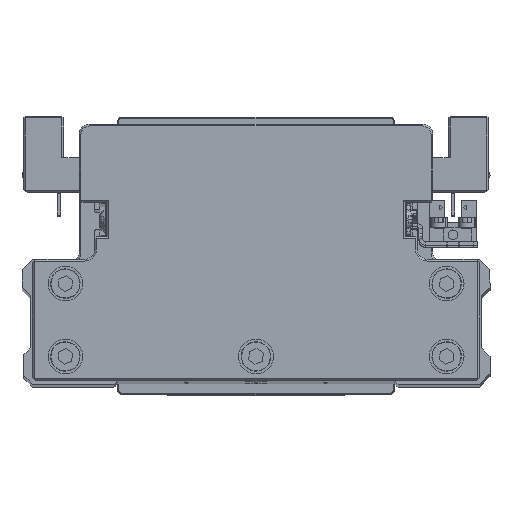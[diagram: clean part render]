
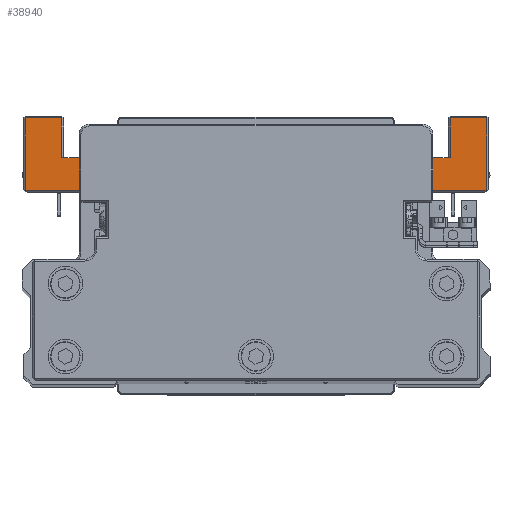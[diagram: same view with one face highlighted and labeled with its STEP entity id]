
A CAD part, top view. The second image highlights one B-rep face of the part: STEP entity #38940.
In plain terms, the highlighted planar face has unit normal (0, 0, 1) as drawn and (0, -1, 0) by its records, which use the part's own axes.
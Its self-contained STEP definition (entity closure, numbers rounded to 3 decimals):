
#454 = CARTESIAN_POINT ( 'NONE',  ( 40.066, -45., -43. ) ) ;
#596 = LINE ( 'NONE', #12829, #36774 ) ;
#811 = AXIS2_PLACEMENT_3D ( 'NONE', #35876, #8424, #20653 ) ;
#855 = EDGE_CURVE ( 'NONE', #39001, #27849, #20644, .T. ) ;
#1129 = AXIS2_PLACEMENT_3D ( 'NONE', #4975, #17209, #29433 ) ;
#1777 = VECTOR ( 'NONE', #2241, 1000. ) ;
#2205 = EDGE_CURVE ( 'NONE', #17321, #16033, #38732, .T. ) ;
#2241 = DIRECTION ( 'NONE',  ( -1., 0., 0. ) ) ;
#2365 = DIRECTION ( 'NONE',  ( -1., 0., 0. ) ) ;
#2406 = VERTEX_POINT ( 'NONE', #3442 ) ;
#2676 = CARTESIAN_POINT ( 'NONE',  ( 46., -45., -52.5 ) ) ;
#2974 = CARTESIAN_POINT ( 'NONE',  ( 66.5, -45., -64. ) ) ;
#3085 = VERTEX_POINT ( 'NONE', #454 ) ;
#3442 = CARTESIAN_POINT ( 'NONE',  ( -46., -45., -52.5 ) ) ;
#4679 = DIRECTION ( 'NONE',  ( 0., 1., 0. ) ) ;
#4975 = CARTESIAN_POINT ( 'NONE',  ( 40.066, -45., -41.5 ) ) ;
#5105 = VECTOR ( 'NONE', #23508, 1000. ) ;
#5352 = CARTESIAN_POINT ( 'NONE',  ( -56., -45., -64. ) ) ;
#5398 = DIRECTION ( 'NONE',  ( -1., 0., 0. ) ) ;
#5729 = DIRECTION ( 'NONE',  ( 0., 0., 1. ) ) ;
#5783 = LINE ( 'NONE', #18013, #19641 ) ;
#6096 = CARTESIAN_POINT ( 'NONE',  ( -66.5, -45., -64.5 ) ) ;
#6617 = CARTESIAN_POINT ( 'NONE',  ( -66.5, -45., -43. ) ) ;
#6902 = ORIENTED_EDGE ( 'NONE', *, *, #16150, .T. ) ;
#7140 = CARTESIAN_POINT ( 'NONE',  ( -55.5, -45., -64. ) ) ;
#7246 = EDGE_CURVE ( 'NONE', #30166, #39001, #33384, .T. ) ;
#7746 = EDGE_CURVE ( 'NONE', #38980, #18238, #17603, .T. ) ;
#8424 = DIRECTION ( 'NONE',  ( 0., -1., 0. ) ) ;
#9076 = LINE ( 'NONE', #21297, #14548 ) ;
#9630 = EDGE_CURVE ( 'NONE', #11993, #39418, #20955, .T. ) ;
#9754 = ORIENTED_EDGE ( 'NONE', *, *, #16925, .F. ) ;
#9918 = EDGE_CURVE ( 'NONE', #17321, #25185, #13910, .T. ) ;
#10278 = ORIENTED_EDGE ( 'NONE', *, *, #39203, .T. ) ;
#10382 = VERTEX_POINT ( 'NONE', #38292 ) ;
#10391 = DIRECTION ( 'NONE',  ( 1., 0., 0. ) ) ;
#10778 = CARTESIAN_POINT ( 'NONE',  ( 39.868, -45., -42.987 ) ) ;
#11279 = CARTESIAN_POINT ( 'NONE',  ( 55.5, -45., -52.5 ) ) ;
#11426 = FACE_OUTER_BOUND ( 'NONE', #32638, .T. ) ;
#11441 = DIRECTION ( 'NONE',  ( 0., 0., 1. ) ) ;
#11525 = CARTESIAN_POINT ( 'NONE',  ( -66.5, -45., -64. ) ) ;
#11935 = CARTESIAN_POINT ( 'NONE',  ( 66.5, -45., -43.5 ) ) ;
#11993 = VERTEX_POINT ( 'NONE', #5352 ) ;
#12214 = VECTOR ( 'NONE', #19361, 1000. ) ;
#12230 = ORIENTED_EDGE ( 'NONE', *, *, #855, .T. ) ;
#12326 = ORIENTED_EDGE ( 'NONE', *, *, #13878, .T. ) ;
#12620 = LINE ( 'NONE', #24839, #33143 ) ;
#12786 = CARTESIAN_POINT ( 'NONE',  ( -46., -45., -54. ) ) ;
#12829 = CARTESIAN_POINT ( 'NONE',  ( -39.868, -45., -42.987 ) ) ;
#12855 = ORIENTED_EDGE ( 'NONE', *, *, #9630, .T. ) ;
#13755 = VERTEX_POINT ( 'NONE', #11525 ) ;
#13878 = EDGE_CURVE ( 'NONE', #27849, #13755, #33548, .T. ) ;
#13910 = LINE ( 'NONE', #26140, #21428 ) ;
#14548 = VECTOR ( 'NONE', #33514, 1000. ) ;
#14903 = DIRECTION ( 'NONE',  ( 0., 0., -1. ) ) ;
#15141 = ORIENTED_EDGE ( 'NONE', *, *, #26752, .F. ) ;
#16018 = ORIENTED_EDGE ( 'NONE', *, *, #25325, .T. ) ;
#16033 = VERTEX_POINT ( 'NONE', #17024 ) ;
#16099 = AXIS2_PLACEMENT_3D ( 'NONE', #32133, #4679, #16908 ) ;
#16150 = EDGE_CURVE ( 'NONE', #33865, #38980, #5783, .T. ) ;
#16861 = ORIENTED_EDGE ( 'NONE', *, *, #26388, .T. ) ;
#16908 = DIRECTION ( 'NONE',  ( 0., 0., -1. ) ) ;
#16925 = EDGE_CURVE ( 'NONE', #2406, #39418, #17484, .T. ) ;
#17024 = CARTESIAN_POINT ( 'NONE',  ( 46., -45., -52.5 ) ) ;
#17209 = DIRECTION ( 'NONE',  ( 0., 1., 0. ) ) ;
#17321 = VERTEX_POINT ( 'NONE', #20232 ) ;
#17484 = LINE ( 'NONE', #29698, #1777 ) ;
#17511 = VERTEX_POINT ( 'NONE', #2974 ) ;
#17584 = VERTEX_POINT ( 'NONE', #12786 ) ;
#17603 = LINE ( 'NONE', #29824, #29591 ) ;
#18013 = CARTESIAN_POINT ( 'NONE',  ( 25.802, -45., -41.111 ) ) ;
#18106 = ORIENTED_EDGE ( 'NONE', *, *, #22736, .T. ) ;
#18238 = VERTEX_POINT ( 'NONE', #23336 ) ;
#18319 = DIRECTION ( 'NONE',  ( 0., 0., -1. ) ) ;
#18419 = CIRCLE ( 'NONE', #1129, 1.5 ) ;
#18585 = CARTESIAN_POINT ( 'NONE',  ( 46., -45., -54. ) ) ;
#18845 = ORIENTED_EDGE ( 'NONE', *, *, #9918, .T. ) ;
#19361 = DIRECTION ( 'NONE',  ( 1., 0., 0. ) ) ;
#19641 = VECTOR ( 'NONE', #30233, 1000. ) ;
#19946 = EDGE_CURVE ( 'NONE', #13755, #11993, #34588, .T. ) ;
#20232 = CARTESIAN_POINT ( 'NONE',  ( 56., -45., -52.5 ) ) ;
#20644 = LINE ( 'NONE', #32867, #31250 ) ;
#20653 = DIRECTION ( 'NONE',  ( 0., 0., -1. ) ) ;
#20955 = LINE ( 'NONE', #33179, #22690 ) ;
#21297 = CARTESIAN_POINT ( 'NONE',  ( 40.066, -45., -43. ) ) ;
#21428 = VECTOR ( 'NONE', #38346, 1000. ) ;
#21660 = VECTOR ( 'NONE', #14903, 1000. ) ;
#21980 = ORIENTED_EDGE ( 'NONE', *, *, #2205, .F. ) ;
#22494 = EDGE_CURVE ( 'NONE', #18238, #30166, #596, .T. ) ;
#22690 = VECTOR ( 'NONE', #5729, 1000. ) ;
#22736 = EDGE_CURVE ( 'NONE', #17511, #10382, #39382, .T. ) ;
#23336 = CARTESIAN_POINT ( 'NONE',  ( -36.217, -45., -42.5 ) ) ;
#23508 = DIRECTION ( 'NONE',  ( -1., 0., 0. ) ) ;
#23645 = PLANE ( 'NONE',  #811 ) ;
#24154 = DIRECTION ( 'NONE',  ( 0., 0., 1. ) ) ;
#24192 = CARTESIAN_POINT ( 'NONE',  ( -56., -45., -52.5 ) ) ;
#24839 = CARTESIAN_POINT ( 'NONE',  ( 46., -45., -54. ) ) ;
#24954 = CARTESIAN_POINT ( 'NONE',  ( -39.868, -45., -42.987 ) ) ;
#25041 = DIRECTION ( 'NONE',  ( -0.991, 0., -0.132 ) ) ;
#25185 = VERTEX_POINT ( 'NONE', #25433 ) ;
#25276 = ORIENTED_EDGE ( 'NONE', *, *, #7246, .T. ) ;
#25325 = EDGE_CURVE ( 'NONE', #3085, #33865, #18419, .T. ) ;
#25433 = CARTESIAN_POINT ( 'NONE',  ( 56., -45., -64. ) ) ;
#25630 = LINE ( 'NONE', #37827, #25791 ) ;
#25791 = VECTOR ( 'NONE', #10391, 1000. ) ;
#25980 = ORIENTED_EDGE ( 'NONE', *, *, #22494, .T. ) ;
#26140 = CARTESIAN_POINT ( 'NONE',  ( 56., -45., -64.5 ) ) ;
#26388 = EDGE_CURVE ( 'NONE', #10382, #3085, #9076, .T. ) ;
#26680 = LINE ( 'NONE', #38890, #28661 ) ;
#26752 = EDGE_CURVE ( 'NONE', #17584, #2406, #26680, .T. ) ;
#26863 = CARTESIAN_POINT ( 'NONE',  ( 36.217, -45., -42.5 ) ) ;
#26936 = EDGE_CURVE ( 'NONE', #17584, #39489, #12620, .T. ) ;
#27649 = EDGE_CURVE ( 'NONE', #16033, #39489, #30131, .T. ) ;
#27849 = VERTEX_POINT ( 'NONE', #6617 ) ;
#28661 = VECTOR ( 'NONE', #11441, 1000. ) ;
#29433 = DIRECTION ( 'NONE',  ( 0., 0., -1. ) ) ;
#29591 = VECTOR ( 'NONE', #2365, 1000. ) ;
#29698 = CARTESIAN_POINT ( 'NONE',  ( -55.5, -45., -52.5 ) ) ;
#29824 = CARTESIAN_POINT ( 'NONE',  ( -77.786, -45., -42.5 ) ) ;
#30131 = LINE ( 'NONE', #2676, #21660 ) ;
#30166 = VERTEX_POINT ( 'NONE', #24954 ) ;
#30233 = DIRECTION ( 'NONE',  ( -0.991, 0., 0.132 ) ) ;
#31250 = VECTOR ( 'NONE', #5398, 1000. ) ;
#31743 = VECTOR ( 'NONE', #18319, 1000. ) ;
#32133 = CARTESIAN_POINT ( 'NONE',  ( -40.066, -45., -41.5 ) ) ;
#32638 = EDGE_LOOP ( 'NONE', ( #35412, #25980, #25276, #12230, #12326, #35762, #12855, #9754, #15141, #38107, #33437, #21980, #18845, #10278, #18106, #16861, #16018, #6902 ) ) ;
#32867 = CARTESIAN_POINT ( 'NONE',  ( -66., -45., -43. ) ) ;
#33064 = CARTESIAN_POINT ( 'NONE',  ( -40.066, -45., -43. ) ) ;
#33143 = VECTOR ( 'NONE', #37060, 1000. ) ;
#33179 = CARTESIAN_POINT ( 'NONE',  ( -56., -45., -52.5 ) ) ;
#33384 = CIRCLE ( 'NONE', #16099, 1.5 ) ;
#33437 = ORIENTED_EDGE ( 'NONE', *, *, #27649, .F. ) ;
#33514 = DIRECTION ( 'NONE',  ( -1., 0., 0. ) ) ;
#33548 = LINE ( 'NONE', #6096, #31743 ) ;
#33865 = VERTEX_POINT ( 'NONE', #10778 ) ;
#34588 = LINE ( 'NONE', #7140, #12214 ) ;
#35412 = ORIENTED_EDGE ( 'NONE', *, *, #7746, .T. ) ;
#35762 = ORIENTED_EDGE ( 'NONE', *, *, #19946, .T. ) ;
#35876 = CARTESIAN_POINT ( 'NONE',  ( 0., -45., 0. ) ) ;
#36774 = VECTOR ( 'NONE', #25041, 1000. ) ;
#37060 = DIRECTION ( 'NONE',  ( 1., 0., 0. ) ) ;
#37414 = VECTOR ( 'NONE', #24154, 1000. ) ;
#37827 = CARTESIAN_POINT ( 'NONE',  ( 67., -45., -64. ) ) ;
#38107 = ORIENTED_EDGE ( 'NONE', *, *, #26936, .T. ) ;
#38292 = CARTESIAN_POINT ( 'NONE',  ( 66.5, -45., -43. ) ) ;
#38346 = DIRECTION ( 'NONE',  ( 0., 0., -1. ) ) ;
#38732 = LINE ( 'NONE', #11279, #5105 ) ;
#38890 = CARTESIAN_POINT ( 'NONE',  ( -46., -45., -52.5 ) ) ;
#38940 = ADVANCED_FACE ( 'NONE', ( #11426 ), #23645, .T. ) ;
#38980 = VERTEX_POINT ( 'NONE', #26863 ) ;
#39001 = VERTEX_POINT ( 'NONE', #33064 ) ;
#39203 = EDGE_CURVE ( 'NONE', #25185, #17511, #25630, .T. ) ;
#39382 = LINE ( 'NONE', #11935, #37414 ) ;
#39418 = VERTEX_POINT ( 'NONE', #24192 ) ;
#39489 = VERTEX_POINT ( 'NONE', #18585 ) ;
